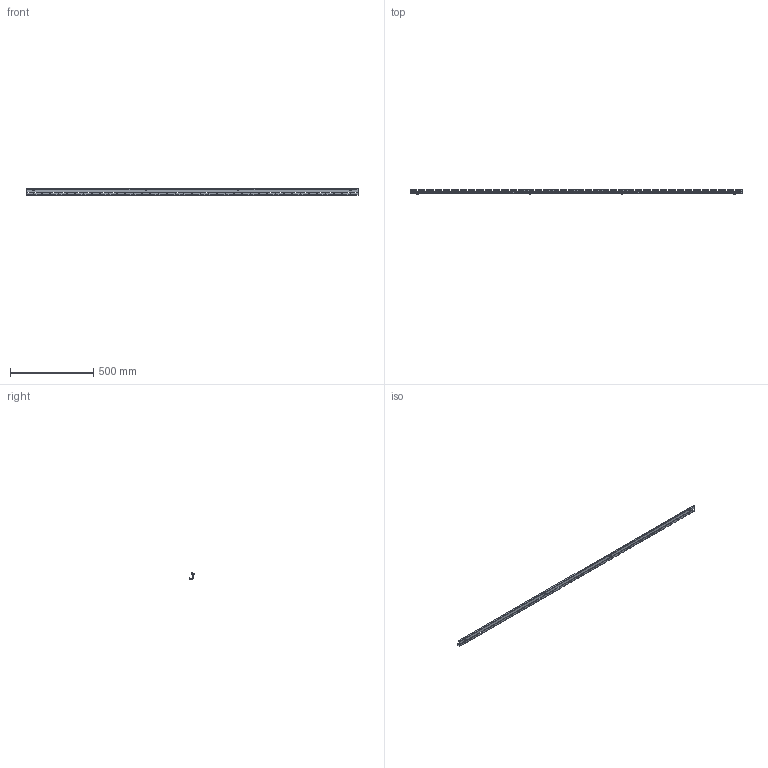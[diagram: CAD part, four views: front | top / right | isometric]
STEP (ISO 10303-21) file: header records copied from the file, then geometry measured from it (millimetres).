
FILE_DESCRIPTION(('CAx-IF Rec.Pracs.---Model Styling and Organization---1.2---2011-12-15','CAx-IF Rec.Pracs.---Geometric and Assembly Validation Properties---4.1---2014-06-16','CAx-IF Rec.Pracs.---PMI Polyline Presentation---2.0---2013-05-24'),'2;1');
FILE_NAME('R5MSSP22.stp','2021-05-05T12:53:07+03:00',(''),(''),'STEP Interface 4.4 by CT CoreTechnologie','3D_Evolution4.4 by CT CoreTechnologie','');
FILE_SCHEMA(('AUTOMOTIVE_DESIGN { 1 0 10303 214 1 1 1 1 }'));
Length unit declared in the file: millimetre
Products named in the file (5): R5MSSP22; RB.0907.00.00.1 ÑÁ_-01; M6 art.MGR-MKO-0625; RB.0907.00.01.1_-01; M6x10-GOST 11738-84 (DIN 912)_thread
Assembly tree (10 placements, depth 3):
  R5MSSP22
    RB.0907.00.00.1 ÑÁ_-01
      M6 art.MGR-MKO-0625  x4
      RB.0907.00.01.1_-01
    M6x10-GOST 11738-84 (DIN 912)_thread  x4
Bounding box: 1989 x 27.5 x 37.5 mm (x, y, z)
Surface area: 266705.8 mm2 (no closed solid volume)
Topology: 0 solids, 17 shells, 1278 faces, 3836 edges, 2502 vertices
Faces by surface type: plane 972, cylinder 282, bspline 24
Entity records: 40942 total; most frequent: CARTESIAN_POINT 7344, ORIENTED_EDGE 7272, DIRECTION 6522, EDGE_CURVE 3636, VECTOR 3108, LINE 3108, VERTEX_POINT 2385, AXIS2_PLACEMENT_3D 1707
